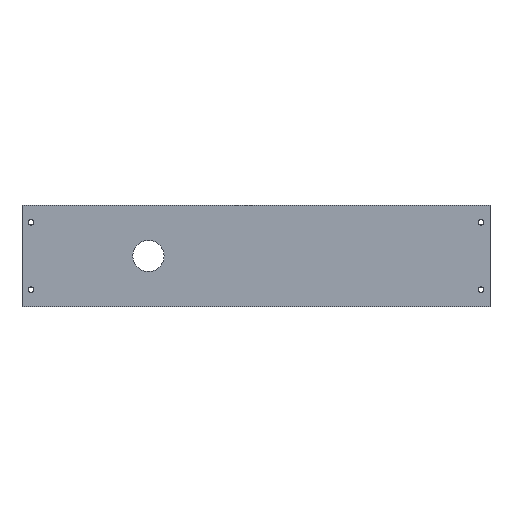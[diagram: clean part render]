
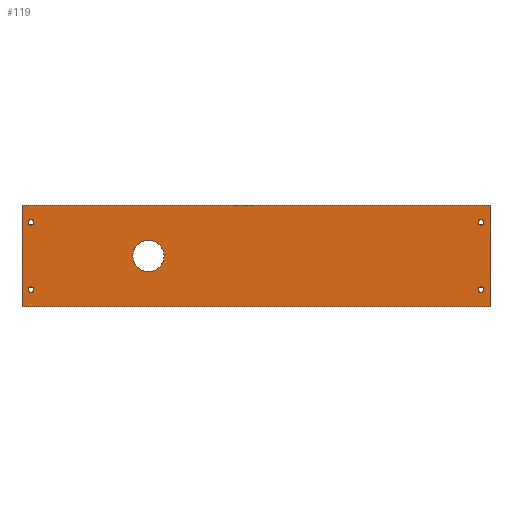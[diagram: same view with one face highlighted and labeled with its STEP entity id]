
A CAD part, top view. The second image highlights one B-rep face of the part: STEP entity #119.
In plain terms, the highlighted planar face has unit normal (0, 0, 1).
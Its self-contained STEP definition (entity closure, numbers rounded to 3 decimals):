
#22 = VERTEX_POINT('',#23);
#23 = CARTESIAN_POINT('',(0.,0.,0.));
#40 = VERTEX_POINT('',#41);
#41 = CARTESIAN_POINT('',(-285.,0.,0.));
#47 = EDGE_CURVE('',#22,#40,#48,.T.);
#48 = LINE('',#49,#50);
#49 = CARTESIAN_POINT('',(0.,0.,0.));
#50 = VECTOR('',#51,1.);
#51 = DIRECTION('',(-1.,0.,0.));
#62 = VERTEX_POINT('',#63);
#63 = CARTESIAN_POINT('',(0.,62.,0.));
#78 = EDGE_CURVE('',#62,#22,#79,.T.);
#79 = LINE('',#80,#81);
#80 = CARTESIAN_POINT('',(0.,62.,0.));
#81 = VECTOR('',#82,1.);
#82 = DIRECTION('',(0.,-1.,0.));
#102 = VERTEX_POINT('',#103);
#103 = CARTESIAN_POINT('',(-285.,62.,0.));
#109 = EDGE_CURVE('',#40,#102,#110,.T.);
#110 = LINE('',#111,#112);
#111 = CARTESIAN_POINT('',(-285.,0.,0.));
#112 = VECTOR('',#113,1.);
#113 = DIRECTION('',(0.,1.,0.));
#119 = ADVANCED_FACE('',(#120,#131,#142,#153,#164,#175),#186,.T.);
#120 = FACE_BOUND('',#121,.T.);
#121 = EDGE_LOOP('',(#122,#123,#124,#130));
#122 = ORIENTED_EDGE('',*,*,#47,.F.);
#123 = ORIENTED_EDGE('',*,*,#78,.F.);
#124 = ORIENTED_EDGE('',*,*,#125,.F.);
#125 = EDGE_CURVE('',#102,#62,#126,.T.);
#126 = LINE('',#127,#128);
#127 = CARTESIAN_POINT('',(-285.,62.,0.));
#128 = VECTOR('',#129,1.);
#129 = DIRECTION('',(1.,0.,0.));
#130 = ORIENTED_EDGE('',*,*,#109,.F.);
#131 = FACE_BOUND('',#132,.T.);
#132 = EDGE_LOOP('',(#133));
#133 = ORIENTED_EDGE('',*,*,#134,.F.);
#134 = EDGE_CURVE('',#135,#135,#137,.T.);
#135 = VERTEX_POINT('',#136);
#136 = CARTESIAN_POINT('',(-277.85,10.5,0.));
#137 = CIRCLE('',#138,1.65);
#138 = AXIS2_PLACEMENT_3D('',#139,#140,#141);
#139 = CARTESIAN_POINT('',(-279.5,10.5,0.));
#140 = DIRECTION('',(0.,0.,1.));
#141 = DIRECTION('',(1.,0.,0.));
#142 = FACE_BOUND('',#143,.T.);
#143 = EDGE_LOOP('',(#144));
#144 = ORIENTED_EDGE('',*,*,#145,.F.);
#145 = EDGE_CURVE('',#146,#146,#148,.T.);
#146 = VERTEX_POINT('',#147);
#147 = CARTESIAN_POINT('',(-3.85,10.5,0.));
#148 = CIRCLE('',#149,1.65);
#149 = AXIS2_PLACEMENT_3D('',#150,#151,#152);
#150 = CARTESIAN_POINT('',(-5.5,10.5,0.));
#151 = DIRECTION('',(0.,0.,1.));
#152 = DIRECTION('',(1.,0.,0.));
#153 = FACE_BOUND('',#154,.T.);
#154 = EDGE_LOOP('',(#155));
#155 = ORIENTED_EDGE('',*,*,#156,.F.);
#156 = EDGE_CURVE('',#157,#157,#159,.T.);
#157 = VERTEX_POINT('',#158);
#158 = CARTESIAN_POINT('',(-198.5,31.,0.));
#159 = CIRCLE('',#160,9.5);
#160 = AXIS2_PLACEMENT_3D('',#161,#162,#163);
#161 = CARTESIAN_POINT('',(-208.,31.,0.));
#162 = DIRECTION('',(0.,0.,1.));
#163 = DIRECTION('',(1.,0.,0.));
#164 = FACE_BOUND('',#165,.T.);
#165 = EDGE_LOOP('',(#166));
#166 = ORIENTED_EDGE('',*,*,#167,.F.);
#167 = EDGE_CURVE('',#168,#168,#170,.T.);
#168 = VERTEX_POINT('',#169);
#169 = CARTESIAN_POINT('',(-277.85,51.5,0.));
#170 = CIRCLE('',#171,1.65);
#171 = AXIS2_PLACEMENT_3D('',#172,#173,#174);
#172 = CARTESIAN_POINT('',(-279.5,51.5,0.));
#173 = DIRECTION('',(0.,0.,1.));
#174 = DIRECTION('',(1.,0.,0.));
#175 = FACE_BOUND('',#176,.T.);
#176 = EDGE_LOOP('',(#177));
#177 = ORIENTED_EDGE('',*,*,#178,.F.);
#178 = EDGE_CURVE('',#179,#179,#181,.T.);
#179 = VERTEX_POINT('',#180);
#180 = CARTESIAN_POINT('',(-3.85,51.5,0.));
#181 = CIRCLE('',#182,1.65);
#182 = AXIS2_PLACEMENT_3D('',#183,#184,#185);
#183 = CARTESIAN_POINT('',(-5.5,51.5,0.));
#184 = DIRECTION('',(0.,0.,1.));
#185 = DIRECTION('',(1.,0.,0.));
#186 = PLANE('',#187);
#187 = AXIS2_PLACEMENT_3D('',#188,#189,#190);
#188 = CARTESIAN_POINT('',(-142.5,31.,0.));
#189 = DIRECTION('',(0.,0.,1.));
#190 = DIRECTION('',(1.,0.,0.));
